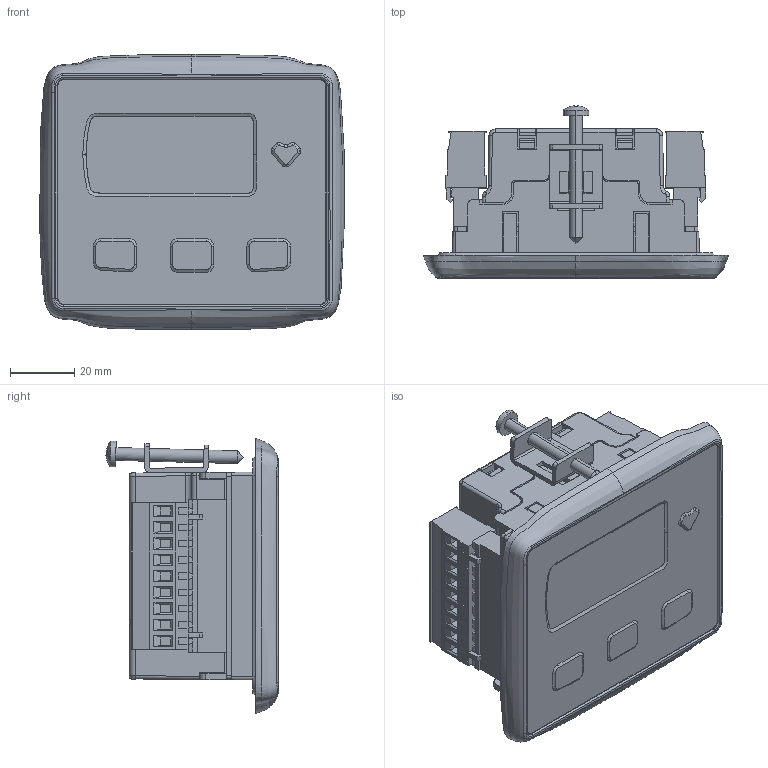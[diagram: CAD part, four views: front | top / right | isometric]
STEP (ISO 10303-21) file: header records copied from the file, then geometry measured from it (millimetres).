
FILE_DESCRIPTION((''),'2;1');
FILE_NAME('1790N_1_ASM_ASM','2025-03-25T15:25:38',('Administrator'),(''),'CREO PARAMETRIC BY PTC INC, 2019010','CREO PARAMETRIC BY PTC INC, 2019010','');
FILE_SCHEMA(('CONFIG_CONTROL_DESIGN'));
Products named in the file (16): WKQ-HGM1790N_1; GJ-HGM1790N-Q_A__1; YP-HGM1790N_1; MF-HGM1790N_1; WKH-HGM1790N_1; PCB_2; SCREEN_1; 00_1; SCREW_M4X40_1; ASM0001_ASM_3_ASM; 9P-180--5_080001_1; 10P-180--5_080001_1; 9P-180_-5_08_1; 10P-180_-5_08_1; 1790N_1_ASM_12_ASM; 1790N_1_ASM_ASM
Assembly tree (15 placements, depth 4):
  1790N_1_ASM_ASM
    1790N_1_ASM_12_ASM
      WKQ-HGM1790N_1
      GJ-HGM1790N-Q_A__1
      YP-HGM1790N_1
      MF-HGM1790N_1
      WKH-HGM1790N_1
      PCB_2
      SCREEN_1
      ASM0001_ASM_3_ASM
        00_1
        SCREW_M4X40_1
      9P-180--5_080001_1
      10P-180--5_080001_1
      9P-180_-5_08_1
      10P-180_-5_08_1
Bounding box: 95.12 x 53.73 x 85.99 mm (x, y, z)
Volume: 244648.1 mm3; surface area: 105602.7 mm2
Topology: 13 solids, 14 shells, 3449 faces, 9140 edges, 5891 vertices
Faces by surface type: plane 2401, cylinder 701, cone 148, bspline 110, torus 76, extrusion 11, sphere 2
Entity records: 132106 total; most frequent: CARTESIAN_POINT 46308, ORIENTED_EDGE 18270, DIRECTION 16998, EDGE_CURVE 9137, VECTOR 6706, LINE 6695, VERTEX_POINT 5891, AXIS2_PLACEMENT_3D 5146
